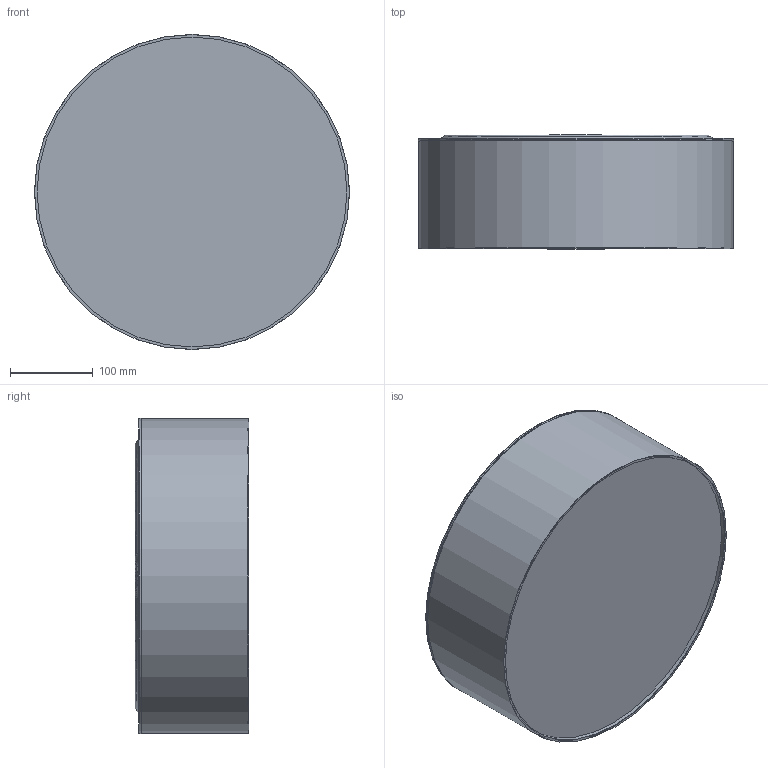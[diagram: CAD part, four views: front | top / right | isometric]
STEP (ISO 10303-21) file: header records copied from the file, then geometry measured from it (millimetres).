
FILE_DESCRIPTION(/* description */ (''),/* implementation_level */ '2;1');
FILE_NAME(/* name */ 'C:/Users/kubaw/OneDrive/Pulpit/3D/JAKUB_WIECZORKOWSKI_MAJ_PACZKA/OK/3229_RONDO KIDS v6.step',/* time_stamp */ '2021-06-16T16:07:04+02:00',/* author */ (''),/* organization */ (''),/* preprocessor_version */ 'ST-DEVELOPER v18.1',/* originating_system */ 'Autodesk Translation Framework v10.9.0.1377',/* authorisation */ '');
FILE_SCHEMA (('AUTOMOTIVE_DESIGN { 1 0 10303 214 3 1 1 }'));
Length unit declared in the file: millimetre
Products named in the file (3): 3229_RONDO KIDS; MOCOWANIE RONDO_PLAFON; POKRYWA_3229
Assembly tree (2 placements, depth 2):
  3229_RONDO KIDS
    MOCOWANIE RONDO_PLAFON
    POKRYWA_3229
Bounding box: 380.34 x 137 x 380.34 mm (x, y, z)
Volume: 530871.9 mm3; surface area: 891781.4 mm2
Topology: 33 solids, 33 shells, 364 faces, 835 edges, 540 vertices
Faces by surface type: plane 270, cylinder 54, bspline 32, torus 8
Full cylindrical faces by diameter (mm): 12.47 x3, 14.819 x8, 18 x1, 20 x1, 20.058 x4, 28.544 x4, 30 x4, 40 x4, 45 x4, 96 x1, 100 x1, 374 x1, 376 x1, 378 x1, 379.09 x1, 380 x1, 380.337 x1
Entity records: 11593 total; most frequent: CARTESIAN_POINT 3143, DIRECTION 1699, ORIENTED_EDGE 1670, EDGE_CURVE 835, LINE 639, VECTOR 639, VERTEX_POINT 540, AXIS2_PLACEMENT_3D 530
